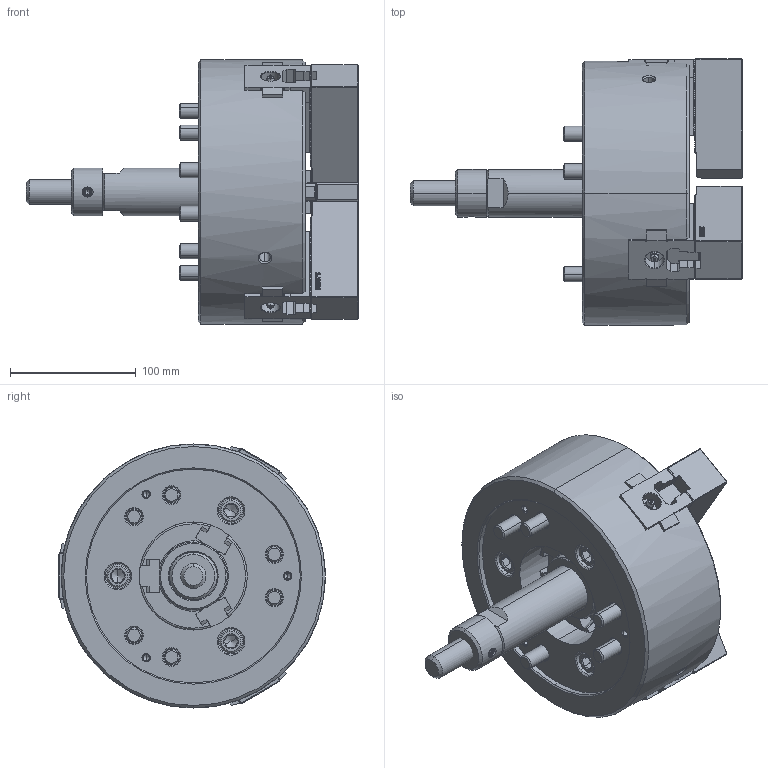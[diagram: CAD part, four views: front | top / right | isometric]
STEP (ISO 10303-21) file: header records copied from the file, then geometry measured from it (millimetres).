
FILE_DESCRIPTION (( 'STEP AP214' ), '1' );
FILE_NAME ('DT1_N-08_OUTSIDE_VIEW_UC.STEP', '2026-03-13T04:42:29', ( '' ), ( '' ), 'SwSTEP 2.0', 'SolidWorks 2022', '' );
FILE_SCHEMA (( 'AUTOMOTIVE_DESIGN' ));
Length unit declared in the file: millimetre
Products named in the file (11): Copy of 61P310518^DT1_N-08; DT1_N-08_DRAWSCREW^DT1_N-08; DT1_N-08_M12x85^DT1_N-08; DT1_N-08_M12x35^DT1_N-08; DT1_N-08_TNUT^DT1_N-08; DT1_N-08_M5x12^DT1_N-08; DT1_N-08_SOFTJAW^DT1_N-08; DT1_N-08_OUTSIDE_VIEW_UC; DT1_N-08_COVER^DT1_N-08; DT1_N-08_DN^DT1_N-08; DT1_N-08_BASE^DT1_N-08
Assembly tree (26 placements, depth 2):
  DT1_N-08_OUTSIDE_VIEW_UC
    DT1_N-08_SOFTJAW^DT1_N-08  x3
    DT1_N-08_TNUT^DT1_N-08  x3
    DT1_N-08_COVER^DT1_N-08
    DT1_N-08_DRAWSCREW^DT1_N-08
    Copy of 61P310518^DT1_N-08
    DT1_N-08_DN^DT1_N-08
    DT1_N-08_BASE^DT1_N-08
    DT1_N-08_M5x12^DT1_N-08  x3
    DT1_N-08_M12x35^DT1_N-08  x6
    DT1_N-08_M12x85^DT1_N-08  x6
Bounding box: 264 x 212.05 x 210 mm (x, y, z)
Volume: 3107488.6 mm3; surface area: 391418.3 mm2
Topology: 26 solids, 26 shells, 4759 faces, 13350 edges, 8738 vertices
Faces by surface type: plane 2774, cylinder 1144, bspline 427, cone 350, torus 58, sphere 6
Entity records: 109226 total; most frequent: CARTESIAN_POINT 34099, ORIENTED_EDGE 17092, DIRECTION 13236, EDGE_CURVE 8546, VECTOR 6024, LINE 6024, VERTEX_POINT 5598, AXIS2_PLACEMENT_3D 3606
